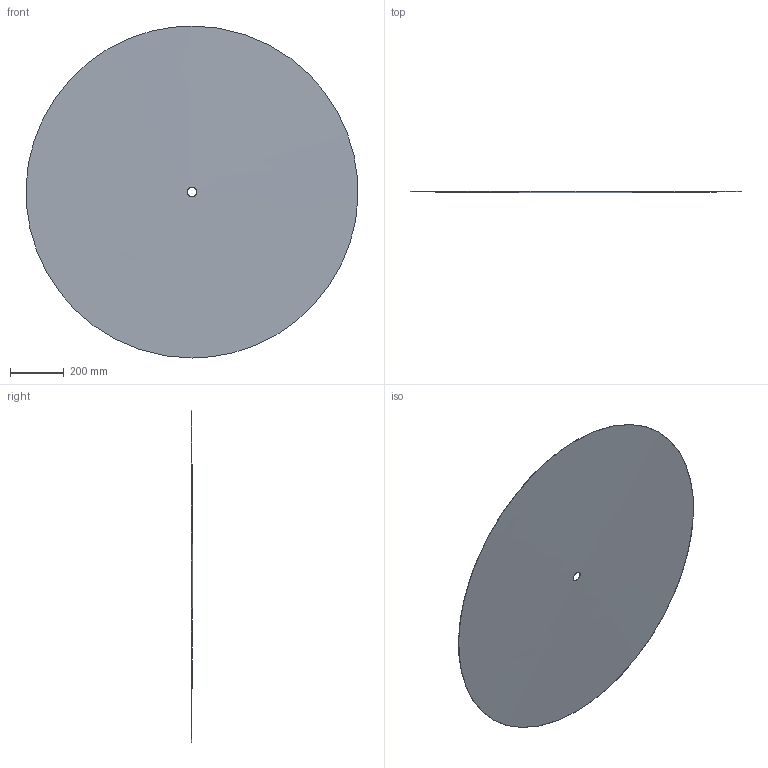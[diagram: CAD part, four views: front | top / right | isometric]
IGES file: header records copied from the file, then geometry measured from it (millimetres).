
Global section: file name: ST.0340.0123.0125; native system: Autodesk Inventor 2026; preprocessor: unknown; author: J. Iwanek; date: 20260918.102946; units: millimetre
Bounding box: 1228.98 x 4.95 x 1230 mm (x, y, z)
Volume: 1484718 mm3; surface area: 2380514.4 mm2
Topology: 1 solids, 1 shells, 4 faces, 12 edges, 8 vertices
Faces by surface type: bspline 4
